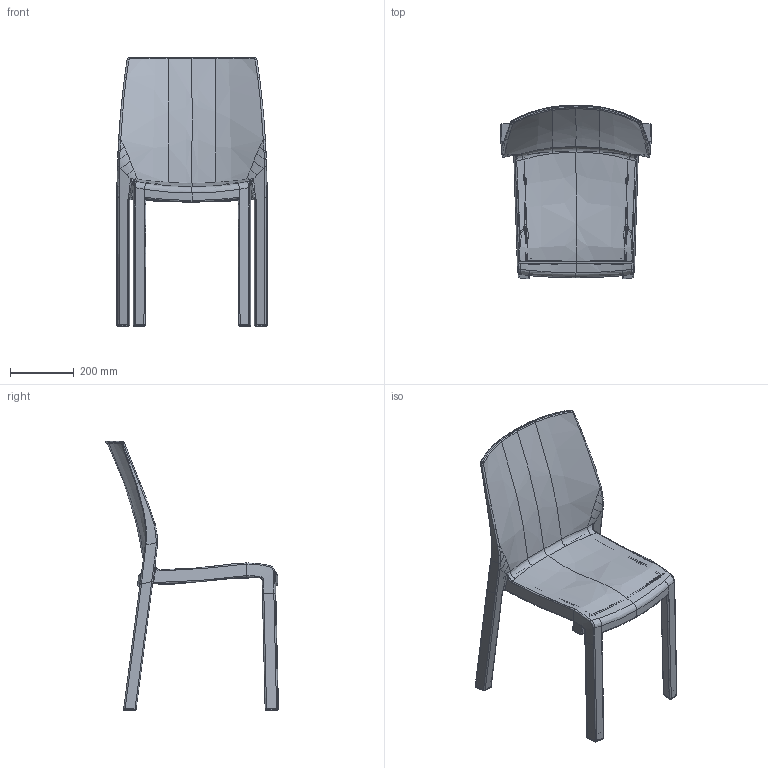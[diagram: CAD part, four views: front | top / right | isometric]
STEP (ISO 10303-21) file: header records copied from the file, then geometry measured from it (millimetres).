
FILE_DESCRIPTION(/* description */ (''),/* implementation_level */ '2;1');
FILE_NAME(/* name */ '2605.stp',/* time_stamp */ '2014-02-19T11:11:25+01:00',/* author */ (''),/* organization */ (''),/* preprocessor_version */ 'ST-DEVELOPER v15',/* originating_system */ 'SIEMENS PLM Software NX 8.5',/* authorisation */ '');
FILE_SCHEMA (('CONFIG_CONTROL_DESIGN'));
Products named in the file (1): 2605
Bounding box: 473.16 x 543.52 x 845.45 mm (x, y, z)
Volume: 3193786.4 mm3; surface area: 1531797.4 mm2
Topology: 59 solids, 59 shells, 1989 faces, 5508 edges, 3388 vertices
Faces by surface type: bspline 1132, cylinder 307, plane 216, sphere 198, torus 128, cone 8
Full cylindrical faces by diameter (mm): 10.8 x2, 20 x2
Entity records: 127346 total; most frequent: CARTESIAN_POINT 90845, ORIENTED_EDGE 9690, EDGE_CURVE 4845, DIRECTION 3994, B_SPLINE_CURVE_WITH_KNOTS 3164, VERTEX_POINT 3108, EDGE_LOOP 2125, ADVANCED_FACE 1989
